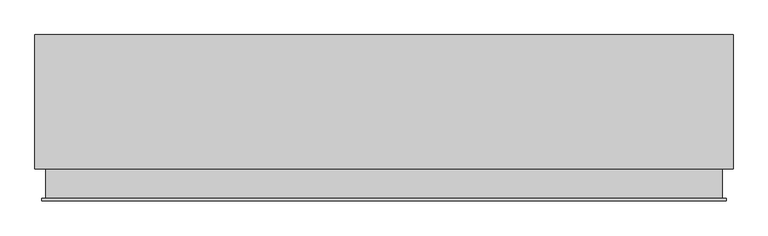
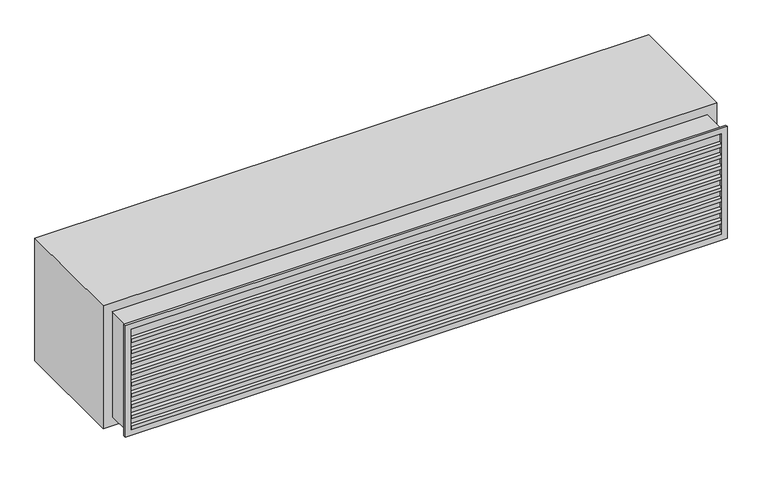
"""IFC4 building model written with IfcOpenShell, lengths in millimetres: air terminal geometry, 020_外気取入ガラリ : 外気取入ガラリ."""

from ifc_helpers import new_model, si_unit, frame, origin, place, context, project, spatial, polyline, outline, extrude, faceted_brep, source, transform, mapped, element, save


def air_terminal_9b9301f9(model_context):
    return source(origin(), model_context, "Body", "SolidModel", [
        extrude(outline(polyline([(48.0, 176.25), (50.0, 176.25), (50.0, 160.0327824), (-8.0, 130.0327824), (-8.0, 116.25), (-10.0, 116.25), (-10.0, 131.25), (48.0, 161.25), (48.0, 176.25)])), frame((-1250.0, 0.0, 0.0), z_axis=(1.0, 0.0, 0.0), x_axis=(0.0, 1.0, 0.0)), (0.0, 0.0, 1.0), 2500.0),
        extrude(outline(polyline([(48.0, 127.5), (50.0, 127.5), (50.0, 111.2827824), (-8.0, 81.2827824), (-8.0, 67.5), (-10.0, 67.5), (-10.0, 82.5), (48.0, 112.5), (48.0, 127.5)])), frame((-1250.0, 0.0, 0.0), z_axis=(1.0, 0.0, 0.0), x_axis=(0.0, 1.0, 0.0)), (0.0, 0.0, 1.0), 2500.0),
        extrude(outline(polyline([(48.0, 78.75), (50.0, 78.75), (50.0, 62.5327824), (-8.0, 32.5327824), (-8.0, 18.75), (-10.0, 18.75), (-10.0, 33.75), (48.0, 63.75), (48.0, 78.75)])), frame((-1250.0, 0.0, 0.0), z_axis=(1.0, 0.0, 0.0), x_axis=(0.0, 1.0, 0.0)), (0.0, 0.0, 1.0), 2500.0),
        extrude(outline(polyline([(48.0, 30.0), (50.0, 30.0), (50.0, 13.7827824), (-8.0, -16.2172176), (-8.0, -30.0), (-10.0, -30.0), (-10.0, -15.0), (48.0, 15.0), (48.0, 30.0)])), frame((-1250.0, 0.0, 0.0), z_axis=(1.0, 0.0, 0.0), x_axis=(0.0, 1.0, 0.0)), (0.0, 0.0, 1.0), 2500.0),
        extrude(outline(polyline([(48.0, -18.75), (50.0, -18.75), (50.0, -34.9672176), (-8.0, -64.9672176), (-8.0, -78.75), (-10.0, -78.75), (-10.0, -63.75), (48.0, -33.75), (48.0, -18.75)])), frame((-1250.0, 0.0, 0.0), z_axis=(1.0, 0.0, 0.0), x_axis=(0.0, 1.0, 0.0)), (0.0, 0.0, 1.0), 2500.0),
        extrude(outline(polyline([(48.0, -67.5), (50.0, -67.5), (50.0, -83.7172176), (-8.0, -113.7172176), (-8.0, -127.5), (-10.0, -127.5), (-10.0, -112.5), (48.0, -82.5), (48.0, -67.5)])), frame((-1250.0, 0.0, 0.0), z_axis=(1.0, 0.0, 0.0), x_axis=(0.0, 1.0, 0.0)), (0.0, 0.0, 1.0), 2500.0),
        extrude(outline(polyline([(48.0, -116.25), (50.0, -116.25), (50.0, -132.4672176), (-8.0, -162.4672176), (-8.0, -176.25), (-10.0, -176.25), (-10.0, -161.25), (48.0, -131.25), (48.0, -116.25)])), frame((-1250.0, 0.0, 0.0), z_axis=(1.0, 0.0, 0.0), x_axis=(0.0, 1.0, 0.0)), (0.0, 0.0, 1.0), 2500.0),
        extrude(outline(polyline([(48.0, 225.0), (50.0, 225.0), (50.0, 208.7827824), (-8.0, 178.7827824), (-8.0, 165.0), (-10.0, 165.0), (-10.0, 180.0), (48.0, 210.0), (48.0, 225.0)])), frame((-1250.0, 0.0, 0.0), z_axis=(1.0, 0.0, 0.0), x_axis=(0.0, 1.0, 0.0)), (0.0, 0.0, 1.0), 2500.0),
        extrude(outline(polyline([(48.0, -165.0), (50.0, -165.0), (50.0, -181.2172176), (-8.0, -211.2172176), (-8.0, -225.0), (-10.0, -225.0), (-10.0, -210.0), (48.0, -180.0), (48.0, -165.0)])), frame((-1250.0, 0.0, 0.0), z_axis=(1.0, 0.0, 0.0), x_axis=(0.0, 1.0, 0.0)), (0.0, 0.0, 1.0), 2500.0),
        faceted_brep([(1250.0, -10.0, 225.0), (1250.0, 110.0, 225.0), (1250.0, 110.0, -225.0), (1250.0, -10.0, -225.0), (1275.0, 0.0, 250.0), (1275.0, -10.0, 250.0), (1275.0, -10.0, -250.0), (1275.0, 0.0, -250.0), (1260.0, 110.0, 235.0), (1260.0, 0.0, 235.0), (1260.0, 0.0, -235.0), (1260.0, 110.0, -235.0), (-1250.0, 110.0, -225.0), (-1250.0, -10.0, -225.0), (-1275.0, -10.0, -250.0), (-1275.0, 0.0, -250.0), (-1260.0, 0.0, -235.0), (-1260.0, 110.0, -235.0), (-1250.0, 110.0, 225.0), (-1250.0, -10.0, 225.0), (-1275.0, -10.0, 250.0), (-1275.0, 0.0, 250.0), (-1260.0, 0.0, 235.0), (-1260.0, 110.0, 235.0)], [[[0, 1, 2, 3]], [[4, 5, 6, 7]], [[8, 9, 10, 11]], [[3, 2, 12, 13]], [[7, 6, 14, 15]], [[11, 10, 16, 17]], [[13, 12, 18, 19]], [[15, 14, 20, 21]], [[17, 16, 22, 23]], [[19, 18, 1, 0]], [[5, 20, 14, 6], [3, 13, 19, 0]], [[21, 20, 5, 4]], [[7, 15, 21, 4], [9, 22, 16, 10]], [[23, 22, 9, 8]], [[11, 17, 23, 8], [1, 18, 12, 2]]]),
        extrude(outline(polyline([(1250.0, 0.0), (-1250.0, 0.0), (-1250.0, 10.0), (1250.0, 10.0), (1250.0, 0.0)])), frame((0.0, 0.0, -225.0), z_axis=(0.0, 0.0, 1.0), x_axis=(1.0, 0.0, 0.0)), (0.0, 0.0, 1.0), 450.0),
        extrude(outline(polyline([(1300.0, 110.0), (-1300.0, 110.0), (-1300.0, 610.0), (1300.0, 610.0), (1300.0, 110.0)])), frame((0.0, 0.0, -275.0), z_axis=(0.0, 0.0, 1.0), x_axis=(1.0, 0.0, 0.0)), (0.0, 0.0, 1.0), 550.0),
    ])


if __name__ == "__main__":
    model = new_model("IFC4")
    model_context = context("Model", 3, world=origin())
    ifc_project = project(units=[si_unit("LENGTHUNIT", "METRE", prefix="MILLI")], contexts=[model_context])
    site = spatial("IfcSite", under=ifc_project)
    building = spatial("IfcBuilding", under=site)
    placement = place(None, origin())
    air_terminal_shape = air_terminal_9b9301f9(model_context)
    element("IfcAirTerminal", 1, ObjectType="020_外気取入ガラリ : 外気取入ガラリ", at=placement, inside=building, context=model_context, shape_type="MappedRepresentation", body=[
        mapped(air_terminal_shape, transform((0.0, 0.0, 0.0), x_axis=(1.0, 0.0, 0.0), y_axis=(0.0, 1.0, 0.0), z_axis=(0.0, 0.0, 1.0))),
    ])
    save(model, "model.ifc")
